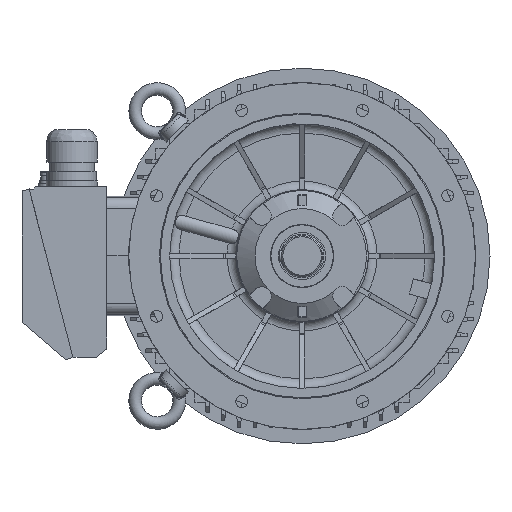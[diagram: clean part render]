
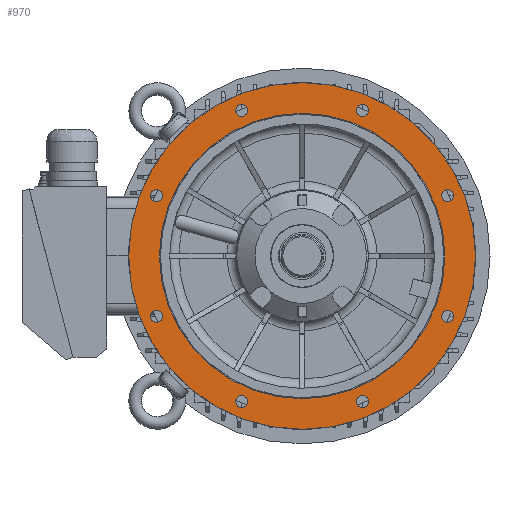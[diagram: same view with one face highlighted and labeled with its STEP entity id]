
A CAD part, front view. The second image highlights one B-rep face of the part: STEP entity #970.
In plain terms, the highlighted planar face has unit normal (0, -1, 0).
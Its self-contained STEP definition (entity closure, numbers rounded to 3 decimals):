
#970 = ADVANCED_FACE( '', ( #2780, #2781, #2782, #2783, #2784, #2785, #2786, #2787, #2788, #2789 ), #2790, .F. );
#2780 = FACE_BOUND( '', #8962, .T. );
#2781 = FACE_BOUND( '', #8963, .T. );
#2782 = FACE_BOUND( '', #8964, .T. );
#2783 = FACE_BOUND( '', #8965, .T. );
#2784 = FACE_BOUND( '', #8966, .T. );
#2785 = FACE_OUTER_BOUND( '', #8967, .T. );
#2786 = FACE_BOUND( '', #8968, .T. );
#2787 = FACE_BOUND( '', #8969, .T. );
#2788 = FACE_BOUND( '', #8970, .T. );
#2789 = FACE_BOUND( '', #8971, .T. );
#2790 = PLANE( '', #8972 );
#8962 = EDGE_LOOP( '', ( #15301 ) );
#8963 = EDGE_LOOP( '', ( #15302 ) );
#8964 = EDGE_LOOP( '', ( #15303 ) );
#8965 = EDGE_LOOP( '', ( #15304 ) );
#8966 = EDGE_LOOP( '', ( #15305 ) );
#8967 = EDGE_LOOP( '', ( #15306 ) );
#8968 = EDGE_LOOP( '', ( #15307 ) );
#8969 = EDGE_LOOP( '', ( #15308 ) );
#8970 = EDGE_LOOP( '', ( #15309 ) );
#8971 = EDGE_LOOP( '', ( #15310 ) );
#8972 = AXIS2_PLACEMENT_3D( '', #15311, #15312, #15313 );
#15301 = ORIENTED_EDGE( '', *, *, #19719, .F. );
#15302 = ORIENTED_EDGE( '', *, *, #19720, .F. );
#15303 = ORIENTED_EDGE( '', *, *, #19721, .F. );
#15304 = ORIENTED_EDGE( '', *, *, #19722, .F. );
#15305 = ORIENTED_EDGE( '', *, *, #19723, .F. );
#15306 = ORIENTED_EDGE( '', *, *, #19695, .T. );
#15307 = ORIENTED_EDGE( '', *, *, #19724, .F. );
#15308 = ORIENTED_EDGE( '', *, *, #19725, .F. );
#15309 = ORIENTED_EDGE( '', *, *, #19726, .F. );
#15310 = ORIENTED_EDGE( '', *, *, #19727, .F. );
#15311 = CARTESIAN_POINT( '', ( -226.4, -95.997, 0. ) );
#15312 = DIRECTION( '', ( 0., 1., 0. ) );
#15313 = DIRECTION( '', ( -1., 0., 0. ) );
#19695 = EDGE_CURVE( '', #23816, #23816, #23817, .T. );
#19719 = EDGE_CURVE( '', #23848, #23848, #23849, .F. );
#19720 = EDGE_CURVE( '', #23850, #23850, #23851, .F. );
#19721 = EDGE_CURVE( '', #23852, #23852, #23853, .F. );
#19722 = EDGE_CURVE( '', #23854, #23854, #23855, .F. );
#19723 = EDGE_CURVE( '', #23856, #23856, #23857, .T. );
#19724 = EDGE_CURVE( '', #23858, #23858, #23859, .F. );
#19725 = EDGE_CURVE( '', #23860, #23860, #23861, .F. );
#19726 = EDGE_CURVE( '', #23862, #23862, #23863, .F. );
#19727 = EDGE_CURVE( '', #23864, #23864, #23865, .F. );
#23816 = VERTEX_POINT( '', #36261 );
#23817 = CIRCLE( '', #36262, 275. );
#23848 = VERTEX_POINT( '', #36293 );
#23849 = CIRCLE( '', #36294, 9.5 );
#23850 = VERTEX_POINT( '', #36295 );
#23851 = CIRCLE( '', #36296, 9.5 );
#23852 = VERTEX_POINT( '', #36297 );
#23853 = CIRCLE( '', #36298, 9.5 );
#23854 = VERTEX_POINT( '', #36299 );
#23855 = CIRCLE( '', #36300, 9.5 );
#23856 = VERTEX_POINT( '', #36301 );
#23857 = CIRCLE( '', #36302, 226.4 );
#23858 = VERTEX_POINT( '', #36303 );
#23859 = CIRCLE( '', #36304, 9.5 );
#23860 = VERTEX_POINT( '', #36305 );
#23861 = CIRCLE( '', #36306, 9.5 );
#23862 = VERTEX_POINT( '', #36307 );
#23863 = CIRCLE( '', #36308, 9.5 );
#23864 = VERTEX_POINT( '', #36309 );
#23865 = CIRCLE( '', #36310, 9.5 );
#36261 = CARTESIAN_POINT( '', ( 275., -95.997, 0. ) );
#36262 = AXIS2_PLACEMENT_3D( '', #40206, #40207, #40208 );
#36293 = CARTESIAN_POINT( '', ( 221.47, -95.997, 95.671 ) );
#36294 = AXIS2_PLACEMENT_3D( '', #40278, #40279, #40280 );
#36295 = CARTESIAN_POINT( '', ( 86.171, -95.997, -230.97 ) );
#36296 = AXIS2_PLACEMENT_3D( '', #40281, #40282, #40283 );
#36297 = CARTESIAN_POINT( '', ( -240.47, -95.997, -95.671 ) );
#36298 = AXIS2_PLACEMENT_3D( '', #40284, #40285, #40286 );
#36299 = CARTESIAN_POINT( '', ( -105.171, -95.997, 230.97 ) );
#36300 = AXIS2_PLACEMENT_3D( '', #40287, #40288, #40289 );
#36301 = CARTESIAN_POINT( '', ( 226.4, -95.997, 0. ) );
#36302 = AXIS2_PLACEMENT_3D( '', #40290, #40291, #40292 );
#36303 = CARTESIAN_POINT( '', ( -240.47, -95.997, 95.671 ) );
#36304 = AXIS2_PLACEMENT_3D( '', #40293, #40294, #40295 );
#36305 = CARTESIAN_POINT( '', ( -105.171, -95.997, -230.97 ) );
#36306 = AXIS2_PLACEMENT_3D( '', #40296, #40297, #40298 );
#36307 = CARTESIAN_POINT( '', ( 221.47, -95.997, -95.671 ) );
#36308 = AXIS2_PLACEMENT_3D( '', #40299, #40300, #40301 );
#36309 = CARTESIAN_POINT( '', ( 86.171, -95.997, 230.97 ) );
#36310 = AXIS2_PLACEMENT_3D( '', #40302, #40303, #40304 );
#40206 = CARTESIAN_POINT( '', ( 0., -95.997, 0. ) );
#40207 = DIRECTION( '', ( 0., -1., 0. ) );
#40208 = DIRECTION( '', ( 1., 0., 0. ) );
#40278 = CARTESIAN_POINT( '', ( 230.97, -95.997, 95.671 ) );
#40279 = DIRECTION( '', ( 0., 1., 0. ) );
#40280 = DIRECTION( '', ( -1., 0., 0. ) );
#40281 = CARTESIAN_POINT( '', ( 95.671, -95.997, -230.97 ) );
#40282 = DIRECTION( '', ( 0., 1., 0. ) );
#40283 = DIRECTION( '', ( -1., 0., 0. ) );
#40284 = CARTESIAN_POINT( '', ( -230.97, -95.997, -95.671 ) );
#40285 = DIRECTION( '', ( 0., 1., 0. ) );
#40286 = DIRECTION( '', ( -1., 0., 0. ) );
#40287 = CARTESIAN_POINT( '', ( -95.671, -95.997, 230.97 ) );
#40288 = DIRECTION( '', ( 0., 1., 0. ) );
#40289 = DIRECTION( '', ( -1., 0., 0. ) );
#40290 = CARTESIAN_POINT( '', ( 0., -95.997, 0. ) );
#40291 = DIRECTION( '', ( 0., -1., 0. ) );
#40292 = DIRECTION( '', ( 1., 0., 0. ) );
#40293 = CARTESIAN_POINT( '', ( -230.97, -95.997, 95.671 ) );
#40294 = DIRECTION( '', ( 0., 1., 0. ) );
#40295 = DIRECTION( '', ( -1., 0., 0. ) );
#40296 = CARTESIAN_POINT( '', ( -95.671, -95.997, -230.97 ) );
#40297 = DIRECTION( '', ( 0., 1., 0. ) );
#40298 = DIRECTION( '', ( -1., 0., 0. ) );
#40299 = CARTESIAN_POINT( '', ( 230.97, -95.997, -95.671 ) );
#40300 = DIRECTION( '', ( 0., 1., 0. ) );
#40301 = DIRECTION( '', ( -1., 0., 0. ) );
#40302 = CARTESIAN_POINT( '', ( 95.671, -95.997, 230.97 ) );
#40303 = DIRECTION( '', ( 0., 1., 0. ) );
#40304 = DIRECTION( '', ( -1., 0., 0. ) );
